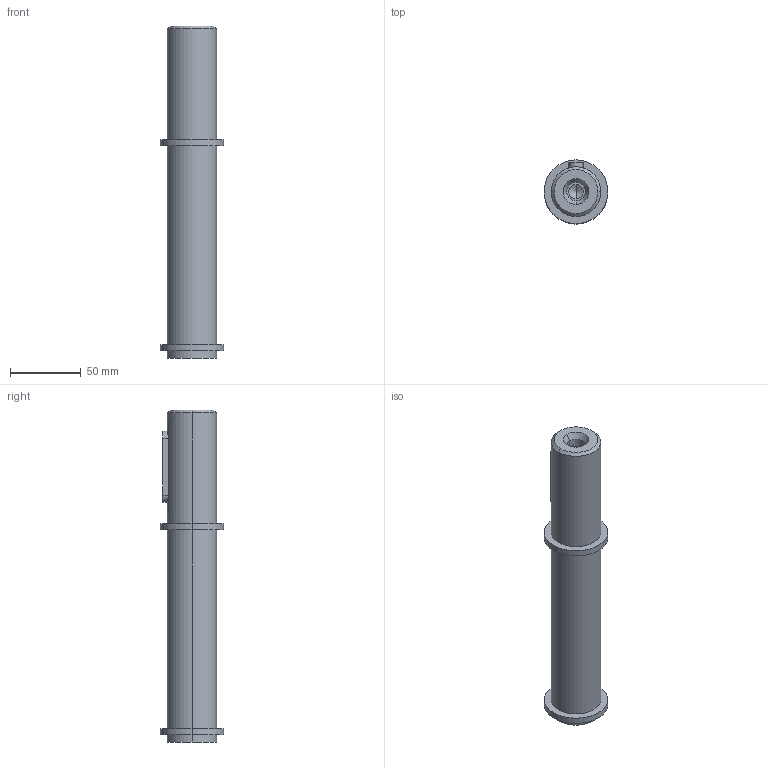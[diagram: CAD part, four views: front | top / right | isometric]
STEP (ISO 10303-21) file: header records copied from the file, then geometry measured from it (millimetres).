
FILE_DESCRIPTION(/* description */ (''),/* implementation_level */ '2;1');
FILE_NAME(/* name */ '6_ALBERO LENTO SEMPLICE NMRV-P090',/* time_stamp */ '2025-10-09T15:26:48+02:00',/* author */ (''),/* organization */ (''),/* preprocessor_version */ 'ST-DEVELOPER v19.2',/* originating_system */ 'Rhino 8.23',/* authorisation */ '');
FILE_SCHEMA (('CONFIG_CONTROL_DESIGN'));
Length unit declared in the file: millimetre
Products named in the file (2): Document; AL 090-35(1-1)-p
Bounding box: 45 x 45 x 234 mm (x, y, z)
Volume: 228299 mm3; surface area: 31947.3 mm2
Topology: 1 solids, 1 shells, 32 faces, 66 edges, 41 vertices
Faces by surface type: cylinder 16, plane 10, bspline 6
Entity records: 1112 total; most frequent: CARTESIAN_POINT 307, ORIENTED_EDGE 128, DIRECTION 102, EDGE_CURVE 64, AXIS2_PLACEMENT_3D 64, VERTEX_POINT 41, EDGE_LOOP 39, TRIMMED_CURVE 34
